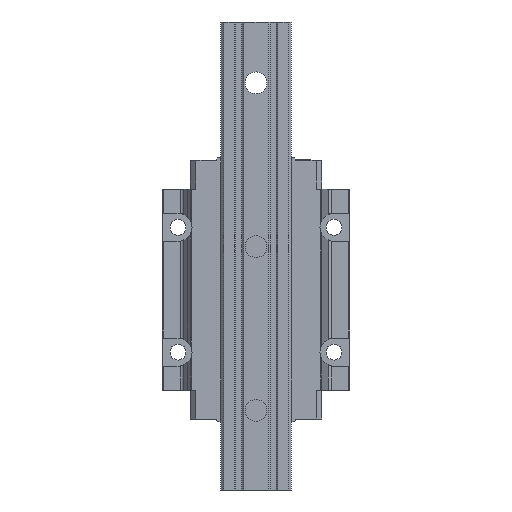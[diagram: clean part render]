
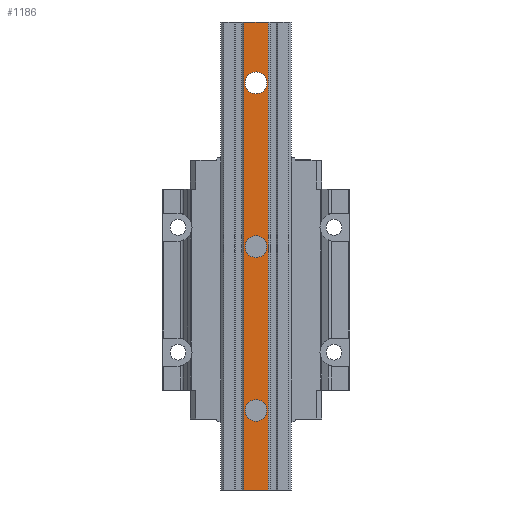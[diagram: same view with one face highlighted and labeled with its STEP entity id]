
A CAD part, front view. The second image highlights one B-rep face of the part: STEP entity #1186.
In plain terms, the highlighted planar face has unit normal (0, -1, 0).
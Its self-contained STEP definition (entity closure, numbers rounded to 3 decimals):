
#1186=ADVANCED_FACE('',(#3743,#3744,#3745,#3746),#1733,.T.);
#1733=PLANE('',#10183);
#2053=LINE('',#13469,#2869);
#2082=LINE('',#13556,#2898);
#2083=LINE('',#13558,#2899);
#2084=LINE('',#13560,#2900);
#2869=VECTOR('',#10984,1.);
#2898=VECTOR('',#11055,1.);
#2899=VECTOR('',#11056,1.);
#2900=VECTOR('',#11057,1.);
#3743=FACE_BOUND('',#3939,.T.);
#3744=FACE_BOUND('',#3940,.T.);
#3745=FACE_BOUND('',#3941,.T.);
#3746=FACE_BOUND('',#3942,.T.);
#3939=EDGE_LOOP('',(#4662));
#3940=EDGE_LOOP('',(#4663,#4664,#4665,#4666));
#3941=EDGE_LOOP('',(#4667));
#3942=EDGE_LOOP('',(#4668));
#4662=ORIENTED_EDGE('',*,*,#8485,.F.);
#4663=ORIENTED_EDGE('',*,*,#8486,.T.);
#4664=ORIENTED_EDGE('',*,*,#8442,.F.);
#4665=ORIENTED_EDGE('',*,*,#8487,.F.);
#4666=ORIENTED_EDGE('',*,*,#8488,.T.);
#4667=ORIENTED_EDGE('',*,*,#8489,.T.);
#4668=ORIENTED_EDGE('',*,*,#8490,.T.);
#7463=VERTEX_POINT('',#13468);
#7464=VERTEX_POINT('',#13470);
#7500=VERTEX_POINT('',#13555);
#7501=VERTEX_POINT('',#13557);
#7502=VERTEX_POINT('',#13559);
#7503=VERTEX_POINT('',#13562);
#7504=VERTEX_POINT('',#13564);
#8442=EDGE_CURVE('',#7463,#7464,#2053,.T.);
#8485=EDGE_CURVE('',#7500,#7500,#9863,.T.);
#8486=EDGE_CURVE('',#7501,#7464,#2082,.T.);
#8487=EDGE_CURVE('',#7502,#7463,#2083,.T.);
#8488=EDGE_CURVE('',#7502,#7501,#2084,.T.);
#8489=EDGE_CURVE('',#7503,#7503,#9864,.T.);
#8490=EDGE_CURVE('',#7504,#7504,#9865,.T.);
#9863=CIRCLE('',#10180,7.);
#9864=CIRCLE('',#10181,7.);
#9865=CIRCLE('',#10182,7.);
#10180=AXIS2_PLACEMENT_3D('',#13554,#11053,#11054);
#10181=AXIS2_PLACEMENT_3D('',#13561,#11058,#11059);
#10182=AXIS2_PLACEMENT_3D('',#13563,#11060,#11061);
#10183=AXIS2_PLACEMENT_3D('',#13565,#11062,#11063);
#10984=DIRECTION('',(1.,0.,0.));
#11053=DIRECTION('',(0.,-1.,0.));
#11054=DIRECTION('',(0.,0.,1.));
#11055=DIRECTION('',(0.,0.,1.));
#11056=DIRECTION('',(0.,0.,1.));
#11057=DIRECTION('',(1.,0.,0.));
#11058=DIRECTION('',(0.,1.,0.));
#11059=DIRECTION('',(0.,0.,1.));
#11060=DIRECTION('',(0.,1.,0.));
#11061=DIRECTION('',(0.,0.,1.));
#11062=DIRECTION('',(0.,-1.,0.));
#11063=DIRECTION('',(0.,0.,-1.));
#13468=CARTESIAN_POINT('',(-6.297,-14.083,429.715));
#13469=CARTESIAN_POINT('',(21.797,-14.083,429.715));
#13470=CARTESIAN_POINT('',(9.703,-14.083,429.715));
#13554=CARTESIAN_POINT('',(1.703,-14.083,390.715));
#13555=CARTESIAN_POINT('',(1.703,-14.083,397.715));
#13556=CARTESIAN_POINT('',(9.703,-14.083,100.715));
#13557=CARTESIAN_POINT('',(9.703,-14.083,129.715));
#13558=CARTESIAN_POINT('',(-6.297,-14.083,430.715));
#13559=CARTESIAN_POINT('',(-6.297,-14.083,129.715));
#13560=CARTESIAN_POINT('',(1.703,-14.083,129.715));
#13561=CARTESIAN_POINT('',(1.703,-14.083,180.715));
#13562=CARTESIAN_POINT('',(1.703,-14.083,187.715));
#13563=CARTESIAN_POINT('',(1.703,-14.083,285.715));
#13564=CARTESIAN_POINT('',(1.703,-14.083,292.715));
#13565=CARTESIAN_POINT('',(1.703,-14.083,100.715));
